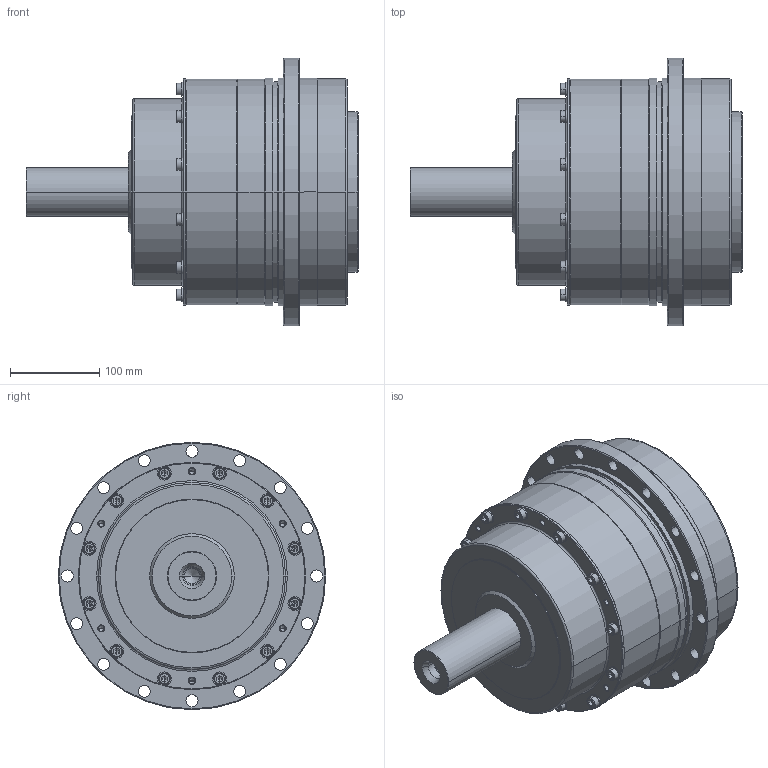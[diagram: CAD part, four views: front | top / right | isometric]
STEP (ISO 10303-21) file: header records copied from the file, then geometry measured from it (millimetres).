
FILE_DESCRIPTION((''),'2;1');
FILE_NAME('ADS255-1_ASM','2007-05-25T',('D00204'),(''),'PRO/ENGINEER BY PARAMETRIC TECHNOLOGY CORPORATION, 2006170','PRO/ENGINEER BY PARAMETRIC TECHNOLOGY CORPORATION, 2006170','');
FILE_SCHEMA(('CONFIG_CONTROL_DESIGN'));
Length unit declared in the file: millimetre
Products named in the file (6): ADS255-1; PK570001; 233100005; 220100807; COVER-SET1-ADS-7_ASM; ADS255-1_ASM
Assembly tree (27 placements, depth 3):
  ADS255-1_ASM
    ADS255-1
    COVER-SET1-ADS-7_ASM
      PK570001
      233100005  x12
      220100807  x12
Bounding box: 372.5 x 300 x 300 mm (x, y, z)
Volume: 9694372.6 mm3; surface area: 631957.8 mm2
Topology: 26 solids, 57 shells, 960 faces, 2122 edges, 1264 vertices
Faces by surface type: cylinder 412, plane 278, cone 214, torus 56
Entity records: 15704 total; most frequent: DIRECTION 3138, CARTESIAN_POINT 2610, ORIENTED_EDGE 2276, AXIS2_PLACEMENT_3D 1340, EDGE_CURVE 1200, VERTEX_POINT 758, CIRCLE 736, EDGE_LOOP 692
